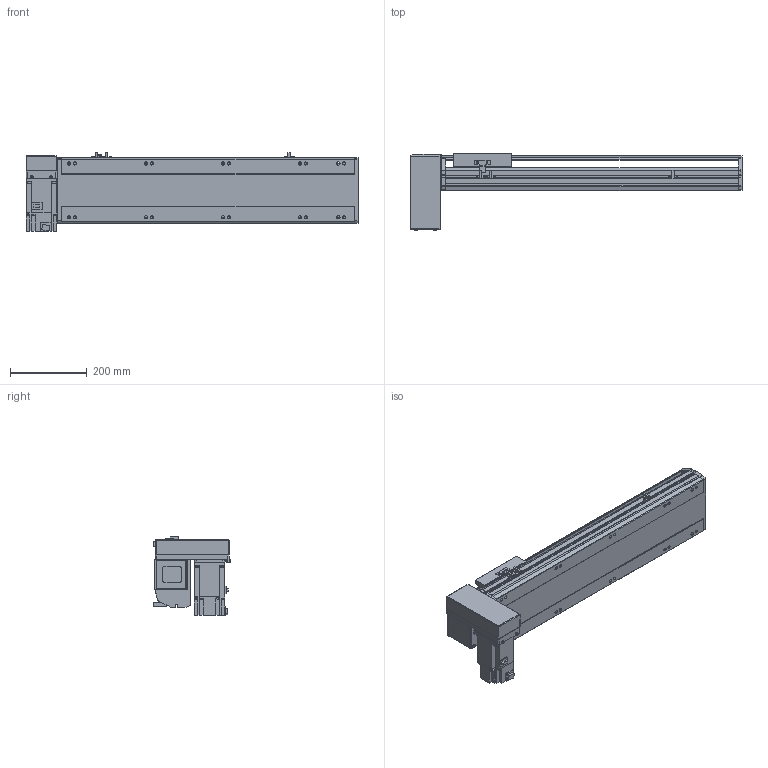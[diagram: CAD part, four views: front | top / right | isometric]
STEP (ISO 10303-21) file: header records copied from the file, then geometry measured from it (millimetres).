
FILE_DESCRIPTION(/* description */ ('STEP AP214'),/* implementation_level */ '2;1');
FILE_NAME(/* name */ 'PBS170-P40-S500-RD-T75-C1-N(0)',/* time_stamp */ '2022-06-08T07:34:26+02:00',/* author */ ('License CC BY-ND 4.0'),/* organization */ ('CADENAS'),/* preprocessor_version */ 'ST-DEVELOPER v18.102',/* originating_system */ 'PARTsolutions',/* authorisation */ ' ');
FILE_SCHEMA (('AUTOMOTIVE_DESIGN {1 0 10303 214 3 1 1}'));
Length unit declared in the file: millimetre
Products named in the file (7): PBS170-P40-S500-RD-T75-C1-N(0); PBS170_sensor; PBS170_plant; PBS170_sliser; T75-p1; PBS170T-RD_motors; PBS170-S500()_body
Assembly tree (8 placements, depth 2):
  PBS170-P40-S500-RD-T75-C1-N(0)
    PBS170_sensor  x3
    PBS170_plant
    PBS170_sliser
    T75-p1
    PBS170T-RD_motors
    PBS170-S500()_body
Bounding box: 863 x 201 x 205.3 mm (x, y, z)
Volume: 7426693.2 mm3; surface area: 1010761.2 mm2
Topology: 8 solids, 8 shells, 1034 faces, 2755 edges, 1796 vertices
Faces by surface type: plane 669, cylinder 315, cone 40, sphere 8, torus 2
Full cylindrical faces by diameter (mm): 3.242 x4, 4 x2, 4.4 x4, 4.5 x6, 4.917 x4, 6 x9, 6.647 x18, 7 x2, 7.5 x4, 8 x8, 8.5 x10, 10 x4, 10.5 x10, 11 x2, 30 x2, 40 x1, 70 x1
Entity records: 29744 total; most frequent: CARTESIAN_POINT 5377, DIRECTION 5090, ORIENTED_EDGE 4848, EDGE_CURVE 2424, AXIS2_PLACEMENT_3D 1747, VERTEX_POINT 1658, LINE 1596, VECTOR 1596
